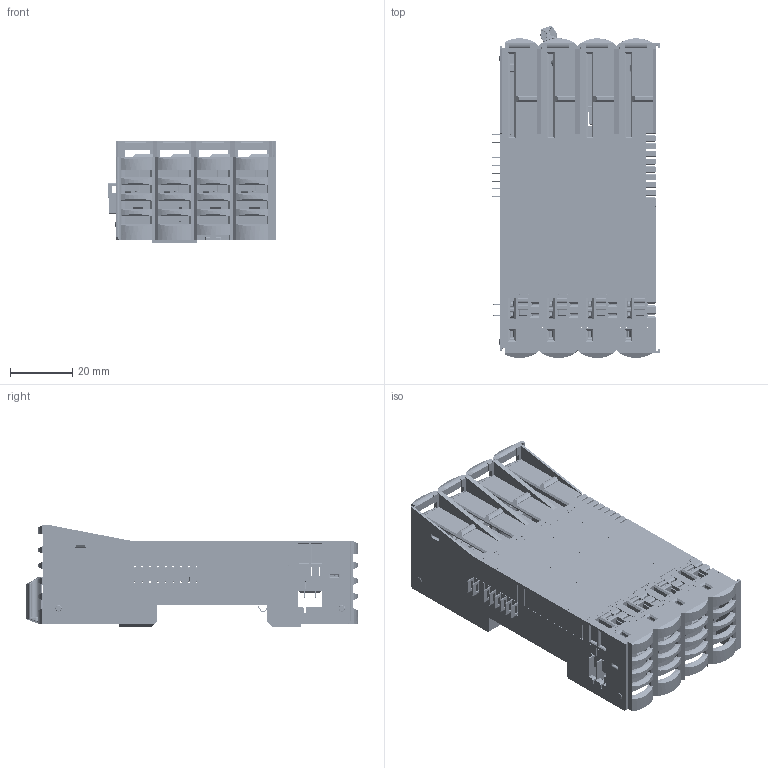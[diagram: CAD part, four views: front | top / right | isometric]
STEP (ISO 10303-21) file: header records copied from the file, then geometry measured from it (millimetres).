
FILE_DESCRIPTION((''),'2;1');
FILE_NAME('2024603','2024-05-02T07:44:53',('l.merz'),(''),'CREO PARAMETRIC BY PTC INC, 2019292','CREO PARAMETRIC BY PTC INC, 2019292','');
FILE_SCHEMA(('AUTOMOTIVE_DESIGN { 1 0 10303 214 1 1 1 1 }'));
Products named in the file (1): 2024603
Bounding box: 54.45 x 106.97 x 32.85 mm (x, y, z)
Volume: 39819.4 mm3; surface area: 64067.8 mm2
Topology: 3 solids, 3 shells, 9961 faces, 27908 edges, 17806 vertices
Faces by surface type: plane 6673, cylinder 2057, extrusion 571, torus 224, cone 166, bspline 159, sphere 111
Entity records: 490854 total; most frequent: CARTESIAN_POINT 81719, ORIENTED_EDGE 55586, DIRECTION 48619, PRESENTATION_STYLE_ASSIGNMENT 38329, STYLED_ITEM 28368, CURVE_STYLE 28365, EDGE_CURVE 27793, VECTOR 21573
